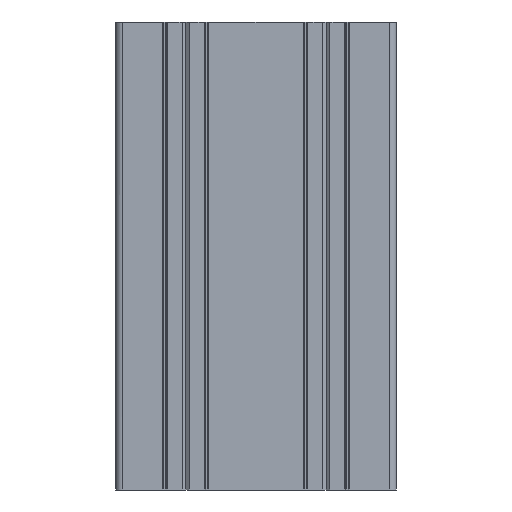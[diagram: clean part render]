
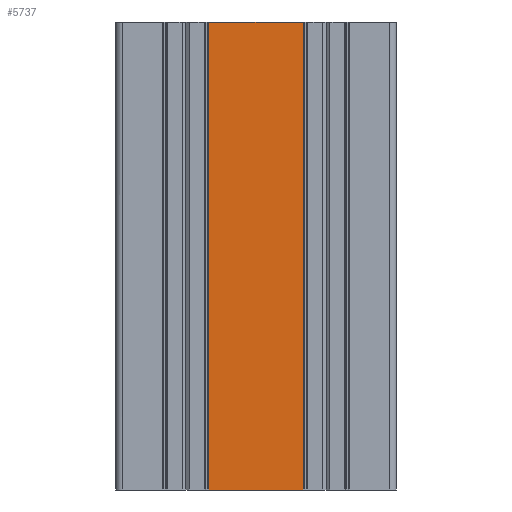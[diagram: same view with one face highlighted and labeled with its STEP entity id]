
A CAD part, left-side view. The second image highlights one B-rep face of the part: STEP entity #5737.
In plain terms, the highlighted free-form (B-spline) face has degree [1, 1] with [2, 2] control points.
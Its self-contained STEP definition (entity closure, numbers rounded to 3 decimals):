
#189 = CARTESIAN_POINT ( 'NONE',  ( 2851.003, 1757.858, 0. ) ) ;
#1522 = CARTESIAN_POINT ( 'NONE',  ( 2851.003, 1778.058, 100. ) ) ;
#1924 = EDGE_LOOP ( 'NONE', ( #13364, #7397, #13981, #15151 ) ) ;
#2517 = CARTESIAN_POINT ( 'NONE',  ( 2851.003, 1757.858, 100. ) ) ;
#3348 = EDGE_CURVE ( 'NONE', #23895, #6137, #23941, .T. ) ;
#4126 = CARTESIAN_POINT ( 'NONE',  ( 2851.003, 1778.058, 100. ) ) ;
#5699 = CARTESIAN_POINT ( 'NONE',  ( 2851.003, 1757.858, 100. ) ) ;
#5737 = ADVANCED_FACE ( 'NONE', ( #10059 ), #16465, .F. ) ;
#5738 = EDGE_CURVE ( 'NONE', #23895, #23328, #17291, .T. ) ;
#6137 = VERTEX_POINT ( 'NONE', #4126 ) ;
#6922 = B_SPLINE_CURVE_WITH_KNOTS ( 'NONE', 1,
 ( #22814, #189 ),
 .UNSPECIFIED., .F., .F.,
 ( 2, 2 ),
 ( -1., 0. ),
 .UNSPECIFIED. ) ;
#7397 = ORIENTED_EDGE ( 'NONE', *, *, #16143, .F. ) ;
#7584 = CARTESIAN_POINT ( 'NONE',  ( 2851.003, 1778.058, 0. ) ) ;
#8562 = CARTESIAN_POINT ( 'NONE',  ( 2851.003, 1757.858, 100. ) ) ;
#9490 = CARTESIAN_POINT ( 'NONE',  ( 2851.003, 1757.858, 0. ) ) ;
#9573 = CARTESIAN_POINT ( 'NONE',  ( 2851.003, 1757.858, 0. ) ) ;
#10059 = FACE_OUTER_BOUND ( 'NONE', #1924, .T. ) ;
#12871 = CARTESIAN_POINT ( 'NONE',  ( 2851.003, 1778.058, 0. ) ) ;
#13364 = ORIENTED_EDGE ( 'NONE', *, *, #17557, .F. ) ;
#13597 = CARTESIAN_POINT ( 'NONE',  ( 2851.003, 1778.058, 0. ) ) ;
#13836 = CARTESIAN_POINT ( 'NONE',  ( 2851.003, 1778.058, 100. ) ) ;
#13981 = ORIENTED_EDGE ( 'NONE', *, *, #3348, .F. ) ;
#14357 = CARTESIAN_POINT ( 'NONE',  ( 2851.003, 1757.858, 0. ) ) ;
#15107 = CARTESIAN_POINT ( 'NONE',  ( 2851.003, 1778.058, 0. ) ) ;
#15151 = ORIENTED_EDGE ( 'NONE', *, *, #5738, .T. ) ;
#16143 = EDGE_CURVE ( 'NONE', #6137, #18049, #20282, .T. ) ;
#16465 = B_SPLINE_SURFACE_WITH_KNOTS ( 'NONE', 1, 1, ( 
 ( #5699, #17169 ),
 ( #9573, #15107 ) ),
 .UNSPECIFIED., .F., .F., .F.,
 ( 2, 2 ),
 ( 2, 2 ),
 ( 0., 1. ),
 ( 0., 1. ),
 .UNSPECIFIED. ) ;
#17169 = CARTESIAN_POINT ( 'NONE',  ( 2851.003, 1778.058, 100. ) ) ;
#17291 = B_SPLINE_CURVE_WITH_KNOTS ( 'NONE', 1,
 ( #7584, #9490 ),
 .UNSPECIFIED., .F., .F.,
 ( 2, 2 ),
 ( 0., 1. ),
 .UNSPECIFIED. ) ;
#17557 = EDGE_CURVE ( 'NONE', #18049, #23328, #6922, .T. ) ;
#18049 = VERTEX_POINT ( 'NONE', #8562 ) ;
#20282 = B_SPLINE_CURVE_WITH_KNOTS ( 'NONE', 1,
 ( #13836, #2517 ),
 .UNSPECIFIED., .F., .F.,
 ( 2, 2 ),
 ( 0., 1. ),
 .UNSPECIFIED. ) ;
#22814 = CARTESIAN_POINT ( 'NONE',  ( 2851.003, 1757.858, 100. ) ) ;
#23328 = VERTEX_POINT ( 'NONE', #14357 ) ;
#23895 = VERTEX_POINT ( 'NONE', #13597 ) ;
#23941 = B_SPLINE_CURVE_WITH_KNOTS ( 'NONE', 1,
 ( #12871, #1522 ),
 .UNSPECIFIED., .F., .F.,
 ( 2, 2 ),
 ( -1., 0. ),
 .UNSPECIFIED. ) ;
